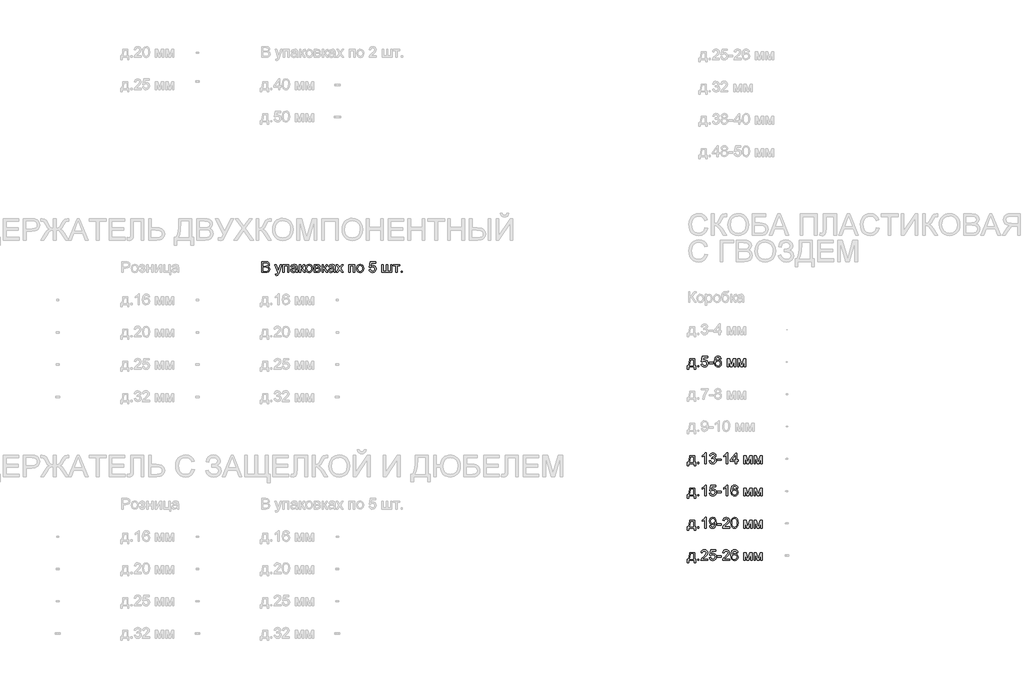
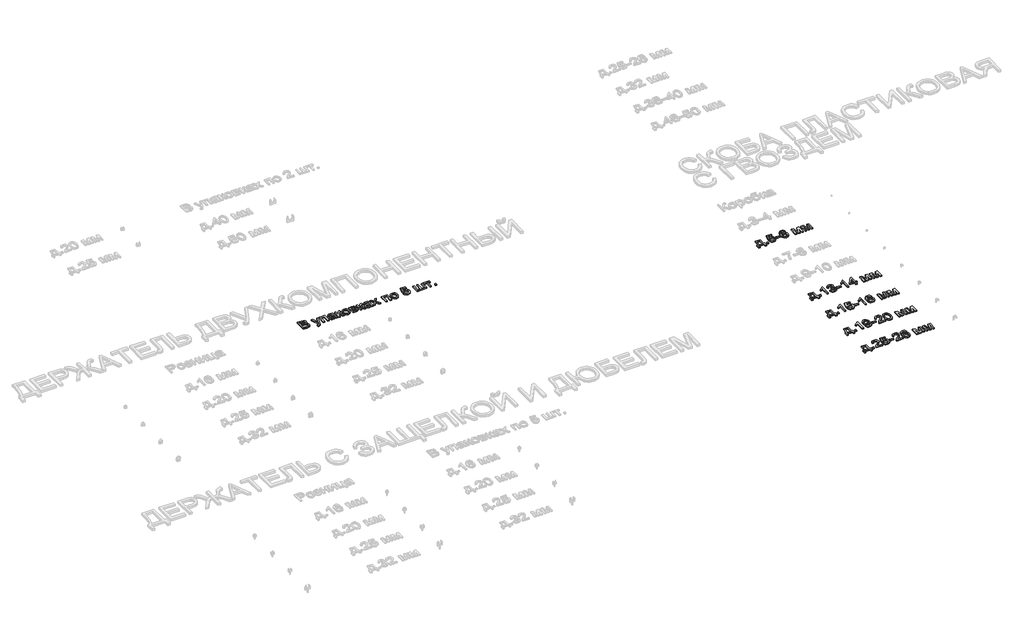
# One storey, part 44 of 98: 6 proxies.
"""IFC4 building model written with IfcOpenShell, lengths in millimetres."""

from ifc_helpers import new_model, si_unit, origin, origin_with_axes, place, context, project, spatial, polyline, outline, extrude, element, save

model = new_model("IFC4")

# Units and contexts
model_context = context("Model", 3, world=origin())
ifc_project = project(units=[si_unit("LENGTHUNIT", "METRE", prefix="MILLI")], contexts=[model_context])

# Site, building, storey
site = spatial("IfcSite", under=ifc_project)
building = spatial("IfcBuilding", under=site)
storey = spatial("IfcBuildingStorey", under=building, Name="Этаж 01", Elevation=0.0)

# Proxies
placement = place(None, origin())
element("IfcBuildingElementProxy", 1, Name="100", ObjectType="100", at=placement, inside=storey, context=model_context, shape_type="SweptSolid", body=[
    extrude(outline(polyline([(8365.3429127, -36359.5121665), (8365.3429127, -36259.0558563), (8403.6762166, -36259.0558563), (8422.4504611, -36262.011175), (8433.5359719, -36271.0978603), (8437.5458857, -36283.9492046), (8434.173634, -36295.6846403), (8423.9833028, -36304.5751218), (8436.3564006, -36313.94385), (8440.6851454, -36329.5665721), (8437.7298267, -36343.0678413), (8430.408975, -36352.6818241), (8419.4828797, -36357.7831211), (8403.3819111, -36359.5121665), (8365.3429127, -36359.5121665)]), holes=[polyline([(8377.8999515, -36299.8662323), (8400.8312626, -36299.8662323), (8414.2221672, -36298.7871118), (8422.2787829, -36294.1395359), (8424.9888469, -36285.9602929), (8422.4627239, -36277.7687871), (8415.2277113, -36272.9250075), (8399.0899544, -36271.6128951), (8377.8999515, -36271.6128951), (8377.8999515, -36299.8662323)]), polyline([(8377.8999515, -36346.9551277), (8403.6516912, -36346.9551277), (8412.9713684, -36346.4646184), (8420.8563058, -36343.7300289), (8426.0802302, -36338.1504853), (8428.1281066, -36329.6891994), (8425.7246109, -36319.9280638), (8417.9377753, -36314.1032655), (8402.4254179, -36312.4232711), (8377.8999515, -36312.4232711), (8377.8999515, -36346.9551277)])]), origin_with_axes(), (0.0, 0.0, 1.0), 10.0),
    extrude(outline(polyline([(8495.62219, -36387.7655037), (8494.0525601, -36375.6744488), (8500.4291814, -36376.7780948), (8506.3888697, -36375.3924059), (8510.0431642, -36371.529645), (8513.4767295, -36362.2835442), (8514.4577481, -36359.2423863), (8487.7740407, -36285.7395637), (8501.0177926, -36285.7395637), (8515.1689867, -36326.6970925), (8520.0986054, -36343.080104), (8525.0282241, -36328.6100789), (8539.5718257, -36285.7395637), (8552.7174756, -36285.7395637), (8527.0393124, -36361.278), (8520.3683855, -36377.6610116), (8513.084322, -36386.5147049), (8503.2986609, -36389.3351335), (8495.62219, -36387.7655037)])), origin_with_axes(), (0.0, 0.0, 1.0), 10.0),
    extrude(outline(polyline([(8563.1162734, -36285.7395637), (8619.6229478, -36285.7395637), (8619.6229478, -36359.5121665), (8607.065909, -36359.5121665), (8607.065909, -36298.2966025), (8575.6733121, -36298.2966025), (8575.6733121, -36359.5121665), (8563.1162734, -36359.5121665), (8563.1162734, -36285.7395637)])), origin_with_axes(), (0.0, 0.0, 1.0), 10.0),
    extrude(outline(polyline([(8685.5474014, -36350.0943874), (8673.3705073, -36358.6047242), (8659.918289, -36361.0817963), (8649.4244551, -36359.5918742), (8641.6836048, -36355.122108), (8636.9103359, -36348.3346852), (8635.3192463, -36339.8917934), (8637.722742, -36329.9589795), (8644.0380496, -36322.7484924), (8652.8304292, -36318.6282141), (8663.6952108, -36316.7397532), (8685.473825, -36312.4232711), (8685.5474014, -36309.6273679), (8682.0893106, -36300.3567416), (8668.2078966, -36296.7269726), (8655.5037051, -36299.1427311), (8649.4459149, -36307.7143815), (8636.8888761, -36306.1447517), (8642.3212669, -36293.8820185), (8653.2596249, -36286.6960569), (8669.8265774, -36284.1699338), (8685.0446293, -36286.4017513), (8693.6408052, -36292.0058203), (8697.4913035, -36300.5284199), (8698.1044401, -36311.5158288), (8698.1044401, -36327.1385509), (8698.7421022, -36348.9539532), (8701.2436998, -36359.5121665), (8688.686661, -36359.5121665), (8685.5474014, -36350.0943874)]), holes=[polyline([(8685.5474014, -36324.9803098), (8665.2893661, -36328.8308081), (8654.4858982, -36330.8664218), (8649.5930677, -36334.1773597), (8647.876285, -36339.0088766), (8651.6164187, -36345.8024308), (8662.5915649, -36348.5247575), (8675.2957564, -36345.5203879), (8683.4872622, -36338.2485871), (8685.473825, -36328.5365025), (8685.5474014, -36324.9803098)])]), origin_with_axes(), (0.0, 0.0, 1.0), 10.0),
    extrude(outline(polyline([(8715.3703684, -36285.7395637), (8727.9274072, -36285.7395637), (8727.9274072, -36317.1321606), (8736.3396422, -36314.8758177), (8743.2312982, -36301.7301677), (8748.9579946, -36290.3871396), (8754.0102407, -36286.6960569), (8763.1950278, -36285.7395637), (8765.5985235, -36285.7395637), (8765.5985235, -36298.3701789), (8762.2140091, -36298.2966025), (8756.0826426, -36299.6209776), (8751.7661605, -36307.8860598), (8746.7016517, -36316.8255923), (8739.6015292, -36321.203388), (8747.5232548, -36326.0900872), (8755.2978276, -36336.3846517), (8768.7377832, -36359.5121665), (8754.4639618, -36359.5121665), (8741.2937864, -36336.875161), (8734.6719104, -36327.2979664), (8727.9274072, -36324.9803098), (8727.9274072, -36359.5121665), (8715.3703684, -36359.5121665), (8715.3703684, -36285.7395637)])), origin_with_axes(), (0.0, 0.0, 1.0), 10.0),
    extrude(outline(polyline([(8773.4466727, -36322.6258651), (8776.1628681, -36304.8387706), (8784.3114543, -36292.3369141), (8794.3791583, -36286.2116789), (8806.433425, -36284.1699338), (8819.6250602, -36286.656203), (8830.1618137, -36294.1150104), (8837.0687981, -36305.957745), (8839.3711263, -36321.5957955), (8835.2998989, -36343.9384953), (8823.4418359, -36356.5813732), (8806.433425, -36361.0817963), (8793.0823742, -36358.6047242), (8782.5578835, -36351.1735079), (8775.7244754, -36339.082453), (8773.4466727, -36322.6258651)]), holes=[polyline([(8786.0037115, -36322.6013396), (8787.4568454, -36333.9658276), (8791.816247, -36342.0622972), (8798.3768093, -36346.9091424), (8806.433425, -36348.5247575), (8814.4532525, -36346.8999454), (8821.001552, -36342.025509), (8825.3609536, -36333.8217405), (8826.8140875, -36322.2089321), (8825.3517566, -36311.175538), (8820.9647638, -36303.189433), (8814.4072672, -36298.3425877), (8806.433425, -36296.7269726), (8798.3768093, -36298.3364563), (8791.816247, -36303.1649075), (8787.4568454, -36311.242983), (8786.0037115, -36322.6013396)])]), origin_with_axes(), (0.0, 0.0, 1.0), 10.0),
    extrude(outline(polyline([(8853.4977949, -36285.7395637), (8881.1625209, -36285.7395637), (8896.3315219, -36287.4195581), (8904.8663841, -36293.5754502), (8908.4348395, -36304.3053417), (8906.2765985, -36313.024145), (8899.7773499, -36319.2413507), (8908.2141103, -36326.0471676), (8911.5740992, -36337.8807051), (8909.446515, -36347.4517684), (8904.3881375, -36354.1901403), (8896.3805728, -36358.1816599), (8885.4054266, -36359.5121665), (8853.4977949, -36359.5121665), (8853.4977949, -36285.7395637)]), holes=[polyline([(8866.0548337, -36313.9929009), (8878.4647196, -36313.9929009), (8888.7041018, -36313.3552388), (8893.6827715, -36310.8045903), (8895.8778007, -36306.1938026), (8892.0273025, -36300.0379106), (8878.8571271, -36298.2966025), (8866.0548337, -36298.2966025), (8866.0548337, -36313.9929009)]), polyline([(8866.0548337, -36346.9551277), (8881.4568265, -36346.9551277), (8895.1175113, -36344.6865221), (8899.0170604, -36336.8506356), (8896.8710821, -36330.8051081), (8891.2792758, -36327.2857037), (8880.2305532, -36326.5499397), (8866.0548337, -36326.5499397), (8866.0548337, -36346.9551277)])]), origin_with_axes(), (0.0, 0.0, 1.0), 10.0),
    extrude(outline(polyline([(8927.2703976, -36285.7395637), (8939.8274364, -36285.7395637), (8939.8274364, -36317.1321606), (8948.2396714, -36314.8758177), (8955.1313274, -36301.7301677), (8960.8580238, -36290.3871396), (8965.9102699, -36286.6960569), (8975.095057, -36285.7395637), (8977.4985527, -36285.7395637), (8977.4985527, -36298.3701789), (8974.1140384, -36298.2966025), (8967.9826718, -36299.6209776), (8963.6661897, -36307.8860598), (8958.6016809, -36316.8255923), (8951.5015584, -36321.203388), (8959.423284, -36326.0900872), (8967.1978569, -36336.3846517), (8980.6378124, -36359.5121665), (8966.363991, -36359.5121665), (8953.1938156, -36336.875161), (8946.5719397, -36327.2979664), (8939.8274364, -36324.9803098), (8939.8274364, -36359.5121665), (8927.2703976, -36359.5121665), (8927.2703976, -36285.7395637)])), origin_with_axes(), (0.0, 0.0, 1.0), 10.0),
    extrude(outline(polyline([(9035.574857, -36350.0943874), (9023.397963, -36358.6047242), (9009.9457447, -36361.0817963), (8999.4519108, -36359.5918742), (8991.7110605, -36355.122108), (8986.9377916, -36348.3346852), (8985.346702, -36339.8917934), (8987.7501977, -36329.9589795), (8994.0655052, -36322.7484924), (9002.8578849, -36318.6282141), (9013.7226665, -36316.7397532), (9035.5012806, -36312.4232711), (9035.574857, -36309.6273679), (9032.1167663, -36300.3567416), (9018.2353523, -36296.7269726), (9005.5311608, -36299.1427311), (8999.4733706, -36307.7143815), (8986.9163318, -36306.1447517), (8992.3487226, -36293.8820185), (9003.2870806, -36286.6960569), (9019.8540331, -36284.1699338), (9035.072085, -36286.4017513), (9043.6682609, -36292.0058203), (9047.5187591, -36300.5284199), (9048.1318958, -36311.5158288), (9048.1318958, -36327.1385509), (9048.7695579, -36348.9539532), (9051.2711555, -36359.5121665), (9038.7141167, -36359.5121665), (9035.574857, -36350.0943874)]), holes=[polyline([(9035.574857, -36324.9803098), (9015.3168218, -36328.8308081), (9004.5133539, -36330.8664218), (8999.6205234, -36334.1773597), (8997.9037407, -36339.0088766), (9001.6438743, -36345.8024308), (9012.6190205, -36348.5247575), (9025.3232121, -36345.5203879), (9033.5147179, -36338.2485871), (9035.5012806, -36328.5365025), (9035.574857, -36324.9803098)])]), origin_with_axes(), (0.0, 0.0, 1.0), 10.0),
    extrude(outline(polyline([(9057.5496749, -36359.5121665), (9084.3805351, -36322.4296613), (9059.1193047, -36285.7395637), (9074.226992, -36285.7395637), (9086.4161488, -36303.3978995), (9092.106057, -36311.736558), (9097.0356757, -36304.9184784), (9110.9170896, -36285.7395637), (9126.0247769, -36285.7395637), (9099.4882223, -36322.4296613), (9125.0437583, -36359.5121665), (9109.936071, -36359.5121665), (9094.5586036, -36337.2185176), (9091.738175, -36333.1472901), (9072.6573621, -36359.5121665), (9057.5496749, -36359.5121665)])), origin_with_axes(), (0.0, 0.0, 1.0), 10.0),
    extrude(outline(polyline([(9175.2719133, -36285.7395637), (9231.7785878, -36285.7395637), (9231.7785878, -36359.5121665), (9219.221549, -36359.5121665), (9219.221549, -36298.2966025), (9187.8289521, -36298.2966025), (9187.8289521, -36359.5121665), (9175.2719133, -36359.5121665), (9175.2719133, -36285.7395637)])), origin_with_axes(), (0.0, 0.0, 1.0), 10.0),
    extrude(outline(polyline([(9247.4748862, -36322.6258651), (9250.1910816, -36304.8387706), (9258.3396678, -36292.3369141), (9268.4073718, -36286.2116789), (9280.4616385, -36284.1699338), (9293.6532737, -36286.656203), (9304.1900272, -36294.1150104), (9311.0970116, -36305.957745), (9313.3993398, -36321.5957955), (9309.3281124, -36343.9384953), (9297.4700494, -36356.5813732), (9280.4616385, -36361.0817963), (9267.1105877, -36358.6047242), (9256.586097, -36351.1735079), (9249.7526889, -36339.082453), (9247.4748862, -36322.6258651)]), holes=[polyline([(9260.031925, -36322.6013396), (9261.4850589, -36333.9658276), (9265.8444605, -36342.0622972), (9272.4050228, -36346.9091424), (9280.4616385, -36348.5247575), (9288.481466, -36346.8999454), (9295.0297655, -36342.025509), (9299.3891671, -36333.8217405), (9300.842301, -36322.2089321), (9299.3799701, -36311.175538), (9294.9929773, -36303.189433), (9288.4354807, -36298.3425877), (9280.4616385, -36296.7269726), (9272.4050228, -36298.3364563), (9265.8444605, -36303.1649075), (9261.4850589, -36311.242983), (9260.031925, -36322.6013396)])]), origin_with_axes(), (0.0, 0.0, 1.0), 10.0),
    extrude(outline(polyline([(9363.6274949, -36332.8284591), (9376.1845336, -36331.2588292), (9382.5121039, -36344.1960127), (9395.6332284, -36348.5247575), (9404.6340746, -36347.019507), (9411.3785778, -36342.5037555), (9415.5908267, -36335.4986692), (9416.9949096, -36326.5254142), (9411.7341971, -36311.6139307), (9405.1276496, -36307.5120464), (9395.8294322, -36306.1447517), (9384.805235, -36308.3275182), (9377.7541635, -36313.9929009), (9365.1971247, -36312.4232711), (9376.1845336, -36260.6254862), (9424.8430589, -36260.6254862), (9424.8430589, -36273.1825249), (9386.3380767, -36273.1825249), (9380.9669996, -36300.847251), (9389.9371889, -36295.4025974), (9399.3365739, -36293.5877129), (9411.0689438, -36295.8379245), (9420.8086196, -36302.5885591), (9427.3661162, -36312.8769922), (9429.5519484, -36325.7405993), (9427.5837797, -36338.2976381), (9421.6792737, -36349.0397923), (9410.3730337, -36358.0712953), (9395.5841775, -36361.0817963), (9383.2509336, -36359.1473501), (9373.4254187, -36353.3440117), (9366.6901125, -36344.3462312), (9363.6274949, -36332.8284591)])), origin_with_axes(), (0.0, 0.0, 1.0), 10.0),
    extrude(outline(polyline([(9482.9193632, -36285.7395637), (9495.4764019, -36285.7395637), (9495.4764019, -36346.9551277), (9523.7297392, -36346.9551277), (9523.7297392, -36285.7395637), (9536.2867779, -36285.7395637), (9536.2867779, -36346.9551277), (9564.5401152, -36346.9551277), (9564.5401152, -36285.7395637), (9577.0971539, -36285.7395637), (9577.0971539, -36359.5121665), (9482.9193632, -36359.5121665), (9482.9193632, -36285.7395637)])), origin_with_axes(), (0.0, 0.0, 1.0), 10.0),
    extrude(outline(polyline([(9588.0845629, -36285.7395637), (9647.730497, -36285.7395637), (9647.730497, -36298.2966025), (9624.1860493, -36298.2966025), (9624.1860493, -36359.5121665), (9611.6290105, -36359.5121665), (9611.6290105, -36298.2966025), (9588.0845629, -36298.2966025), (9588.0845629, -36285.7395637)])), origin_with_axes(), (0.0, 0.0, 1.0), 10.0),
    extrude(outline(polyline([(9661.8571656, -36359.5121665), (9661.8571656, -36346.9551277), (9674.4142044, -36346.9551277), (9674.4142044, -36359.5121665), (9661.8571656, -36359.5121665)])), origin_with_axes(), (0.0, 0.0, 1.0), 10.0),
])
element("IfcBuildingElementProxy", 2, Name="100", ObjectType="100", at=placement, inside=storey, context=model_context, shape_type="SweptSolid", body=[
    extrude(outline(polyline([(12344.2087845, -37163.7647458), (12391.2976799, -37163.7647458), (12391.2976799, -37224.9803098), (12400.715459, -37224.9803098), (12400.715459, -37257.9425366), (12388.1584202, -37257.9425366), (12388.1584202, -37237.5373486), (12336.3606353, -37237.5373486), (12336.3606353, -37257.9425366), (12323.8035965, -37257.9425366), (12323.8035965, -37224.9803098), (12331.6517458, -37224.9803098), (12341.3515677, -37201.031192), (12344.2087845, -37163.7647458)]), holes=[polyline([(12355.1961935, -37176.3217846), (12352.2531375, -37204.9307411), (12345.7784144, -37224.9803098), (12378.7406412, -37224.9803098), (12378.7406412, -37176.3217846), (12355.1961935, -37176.3217846)])]), origin_with_axes(), (0.0, 0.0, 1.0), 10.0),
    extrude(outline(polyline([(12417.9813873, -37237.5373486), (12417.9813873, -37224.9803098), (12430.5384261, -37224.9803098), (12430.5384261, -37237.5373486), (12417.9813873, -37237.5373486)])), origin_with_axes(), (0.0, 0.0, 1.0), 10.0),
    extrude(outline(polyline([(12450.9436141, -37210.8536412), (12463.5006528, -37209.2840114), (12469.8282232, -37222.2211949), (12482.9493477, -37226.5499397), (12491.9501938, -37225.0446892), (12498.694697, -37220.5289377), (12502.9069459, -37213.5238514), (12504.3110288, -37204.5505964), (12499.0503163, -37189.6391128), (12492.4437688, -37185.5372286), (12483.1455514, -37184.1699338), (12472.1213543, -37186.3527004), (12465.0702827, -37192.0180831), (12452.5132439, -37190.4484532), (12463.5006528, -37138.6506683), (12512.1591781, -37138.6506683), (12512.1591781, -37151.2077071), (12473.6541959, -37151.2077071), (12468.2831188, -37178.8724331), (12477.2533081, -37173.4277796), (12486.6526931, -37171.6128951), (12498.385063, -37173.8631066), (12508.1247389, -37180.6137412), (12514.6822354, -37190.9021744), (12516.8680676, -37203.7657815), (12514.8998989, -37216.3228202), (12508.9953929, -37227.0649745), (12497.6891529, -37236.0964775), (12482.9002967, -37239.1069785), (12470.5670528, -37237.1725323), (12460.7415379, -37231.3691938), (12454.0062317, -37222.3714134), (12450.9436141, -37210.8536412)])), origin_with_axes(), (0.0, 0.0, 1.0), 10.0),
    extrude(outline(polyline([(12524.7162168, -37207.7143815), (12524.7162168, -37195.1573428), (12563.956963, -37195.1573428), (12563.956963, -37207.7143815), (12524.7162168, -37207.7143815)])), origin_with_axes(), (0.0, 0.0, 1.0), 10.0),
    extrude(outline(polyline([(12639.2991956, -37163.7647458), (12626.7421568, -37165.3343757), (12621.9842164, -37154.8620016), (12609.4026521, -37149.6380772), (12598.0718867, -37152.6792351), (12589.5002362, -37164.0958396), (12585.9317808, -37186.4753277), (12597.0050289, -37176.4566747), (12610.7270273, -37173.1825249), (12622.3275729, -37175.4204737), (12632.064183, -37182.1343201), (12638.6676648, -37192.3920964), (12640.8688254, -37205.2618349), (12636.7240216, -37222.5890769), (12625.3196798, -37234.85181), (12608.8630919, -37239.1069785), (12594.6168616, -37236.2865498), (12583.2707677, -37227.8252639), (12575.8487485, -37212.8892549), (12573.3747421, -37190.644657), (12576.1215943, -37165.6348127), (12584.362151, -37148.5344312), (12595.6132087, -37139.9443867), (12610.1874671, -37137.0810385), (12621.2055328, -37138.8530034), (12630.0285693, -37144.1688982), (12636.2089868, -37152.61179), (12639.2991956, -37163.7647458)]), holes=[polyline([(12585.9317808, -37205.0656312), (12588.8380486, -37215.9426755), (12596.5635705, -37223.8398757), (12607.8820732, -37226.5499397), (12616.1686152, -37225.1458567), (12622.6831922, -37220.9336079), (12626.904638, -37214.311732), (12628.3117867, -37205.6787678), (12626.9230321, -37197.3922259), (12622.7567686, -37191.0738526), (12616.131827, -37187.0731359), (12607.3670384, -37185.7395637), (12592.173512, -37191.0738526), (12587.4922136, -37197.2389417), (12585.9317808, -37205.0656312)])]), origin_with_axes(), (0.0, 0.0, 1.0), 10.0),
    extrude(outline(polyline([(12694.2362402, -37163.7647458), (12715.8431761, -37163.7647458), (12732.4959677, -37222.8220688), (12750.4486091, -37163.7647458), (12771.1481027, -37163.7647458), (12771.1481027, -37237.5373486), (12758.5910639, -37237.5373486), (12758.5910639, -37178.1366691), (12740.5403207, -37237.5373486), (12724.0592073, -37237.5373486), (12706.793279, -37175.291715), (12706.793279, -37237.5373486), (12694.2362402, -37237.5373486), (12694.2362402, -37163.7647458)])), origin_with_axes(), (0.0, 0.0, 1.0), 10.0),
    extrude(outline(polyline([(12789.9836608, -37163.7647458), (12811.5905967, -37163.7647458), (12828.2433883, -37222.8220688), (12846.1960297, -37163.7647458), (12866.8955233, -37163.7647458), (12866.8955233, -37237.5373486), (12854.3384845, -37237.5373486), (12854.3384845, -37178.1366691), (12836.2877413, -37237.5373486), (12819.8066279, -37237.5373486), (12802.5406996, -37175.291715), (12802.5406996, -37237.5373486), (12789.9836608, -37237.5373486), (12789.9836608, -37163.7647458)])), origin_with_axes(), (0.0, 0.0, 1.0), 10.0),
])
element("IfcBuildingElementProxy", 3, Name="100", ObjectType="100", at=placement, inside=storey, context=model_context, shape_type="SweptSolid", body=[
    extrude(outline(polyline([(12344.2087845, -38063.7647458), (12391.2976799, -38063.7647458), (12391.2976799, -38124.9803098), (12400.715459, -38124.9803098), (12400.715459, -38157.9425366), (12388.1584202, -38157.9425366), (12388.1584202, -38137.5373486), (12336.3606353, -38137.5373486), (12336.3606353, -38157.9425366), (12323.8035965, -38157.9425366), (12323.8035965, -38124.9803098), (12331.6517458, -38124.9803098), (12341.3515677, -38101.031192), (12344.2087845, -38063.7647458)]), holes=[polyline([(12355.1961935, -38076.3217846), (12352.2531375, -38104.9307411), (12345.7784144, -38124.9803098), (12378.7406412, -38124.9803098), (12378.7406412, -38076.3217846), (12355.1961935, -38076.3217846)])]), origin_with_axes(), (0.0, 0.0, 1.0), 10.0),
    extrude(outline(polyline([(12417.9813873, -38137.5373486), (12417.9813873, -38124.9803098), (12430.5384261, -38124.9803098), (12430.5384261, -38137.5373486), (12417.9813873, -38137.5373486)])), origin_with_axes(), (0.0, 0.0, 1.0), 10.0),
    extrude(outline(polyline([(12498.0325095, -38137.5373486), (12485.4754707, -38137.5373486), (12485.4754707, -38059.25206), (12473.5806195, -38067.7256087), (12460.3613931, -38074.0654417), (12460.3613931, -38062.195116), (12478.7677556, -38050.4474176), (12489.9391056, -38037.0810385), (12498.0325095, -38037.0810385), (12498.0325095, -38137.5373486)])), origin_with_axes(), (0.0, 0.0, 1.0), 10.0),
    extrude(outline(polyline([(12527.8554765, -38110.8536412), (12540.4125153, -38109.2840114), (12547.3409595, -38122.5032377), (12560.3026685, -38126.5499397), (12568.9111072, -38125.1581195), (12575.5575086, -38120.9826588), (12581.2228913, -38107.1993467), (12575.6065595, -38094.2131123), (12561.3327381, -38089.0750271), (12552.5280957, -38090.4484532), (12553.9260473, -38077.8914145), (12555.9371355, -38078.0385673), (12570.1864314, -38074.4333237), (12574.9321092, -38069.8593242), (12576.5140018, -38063.3478129), (12571.9277396, -38053.5253636), (12560.1064648, -38049.6380772), (12548.1380372, -38053.5621518), (12541.9821451, -38065.3343757), (12529.4251064, -38063.7647458), (12533.1223204, -38052.4891627), (12539.7012768, -38044.0707964), (12548.7021229, -38038.8284779), (12559.6650064, -38037.0810385), (12574.8094818, -38040.5268665), (12585.4044833, -38049.9446456), (12589.0710405, -38062.6120489), (12585.5884243, -38074.188069), (12575.2877284, -38082.5022021), (12588.9729387, -38091.0861154), (12593.7799301, -38107.4200759), (12591.3764344, -38119.6582836), (12584.1659473, -38129.8854031), (12573.2827716, -38136.8015846), (12559.8612101, -38139.1069785), (12547.7211043, -38137.1388098), (12537.8373413, -38131.2343038), (12530.9640794, -38122.2028008), (12527.8554765, -38110.8536412)])), origin_with_axes(), (0.0, 0.0, 1.0), 10.0),
    extrude(outline(polyline([(12601.6280793, -38107.7143815), (12601.6280793, -38095.1573428), (12640.8688254, -38095.1573428), (12640.8688254, -38107.7143815), (12601.6280793, -38107.7143815)])), origin_with_axes(), (0.0, 0.0, 1.0), 10.0),
    extrude(outline(polyline([(12698.9451298, -38137.5373486), (12686.388091, -38137.5373486), (12686.388091, -38059.25206), (12674.4932398, -38067.7256087), (12661.2740134, -38074.0654417), (12661.2740134, -38062.195116), (12679.6803759, -38050.4474176), (12690.8517259, -38037.0810385), (12698.9451298, -38037.0810385), (12698.9451298, -38137.5373486)])), origin_with_axes(), (0.0, 0.0, 1.0), 10.0),
    extrude(outline(polyline([(12769.5784728, -38137.5373486), (12769.5784728, -38113.9929009), (12724.0592073, -38113.9929009), (12724.0592073, -38101.4358622), (12772.7177325, -38038.6506683), (12782.1355116, -38038.6506683), (12782.1355116, -38101.4358622), (12794.6925504, -38101.4358622), (12794.6925504, -38113.9929009), (12782.1355116, -38113.9929009), (12782.1355116, -38137.5373486), (12769.5784728, -38137.5373486)]), holes=[polyline([(12769.5784728, -38101.4358622), (12769.5784728, -38062.6365744), (12739.5102511, -38101.4358622), (12769.5784728, -38101.4358622)])]), origin_with_axes(), (0.0, 0.0, 1.0), 10.0),
    extrude(outline(polyline([(12848.0599651, -38063.7647458), (12869.666901, -38063.7647458), (12886.3196926, -38122.8220688), (12904.272334, -38063.7647458), (12924.9718276, -38063.7647458), (12924.9718276, -38137.5373486), (12912.4147888, -38137.5373486), (12912.4147888, -38078.1366691), (12894.3640456, -38137.5373486), (12877.8829322, -38137.5373486), (12860.6170039, -38075.291715), (12860.6170039, -38137.5373486), (12848.0599651, -38137.5373486), (12848.0599651, -38063.7647458)])), origin_with_axes(), (0.0, 0.0, 1.0), 10.0),
    extrude(outline(polyline([(12943.8073857, -38063.7647458), (12965.4143216, -38063.7647458), (12982.0671132, -38122.8220688), (13000.0197546, -38063.7647458), (13020.7192482, -38063.7647458), (13020.7192482, -38137.5373486), (13008.1622094, -38137.5373486), (13008.1622094, -38078.1366691), (12990.1114662, -38137.5373486), (12973.6303528, -38137.5373486), (12956.3644245, -38075.291715), (12956.3644245, -38137.5373486), (12943.8073857, -38137.5373486), (12943.8073857, -38063.7647458)])), origin_with_axes(), (0.0, 0.0, 1.0), 10.0),
])
element("IfcBuildingElementProxy", 4, Name="100", ObjectType="100", at=placement, inside=storey, context=model_context, shape_type="SweptSolid", body=[
    extrude(outline(polyline([(12344.2087845, -38363.7647458), (12391.2976799, -38363.7647458), (12391.2976799, -38424.9803098), (12400.715459, -38424.9803098), (12400.715459, -38457.9425366), (12388.1584202, -38457.9425366), (12388.1584202, -38437.5373486), (12336.3606353, -38437.5373486), (12336.3606353, -38457.9425366), (12323.8035965, -38457.9425366), (12323.8035965, -38424.9803098), (12331.6517458, -38424.9803098), (12341.3515677, -38401.031192), (12344.2087845, -38363.7647458)]), holes=[polyline([(12355.1961935, -38376.3217846), (12352.2531375, -38404.9307411), (12345.7784144, -38424.9803098), (12378.7406412, -38424.9803098), (12378.7406412, -38376.3217846), (12355.1961935, -38376.3217846)])]), origin_with_axes(), (0.0, 0.0, 1.0), 10.0),
    extrude(outline(polyline([(12417.9813873, -38437.5373486), (12417.9813873, -38424.9803098), (12430.5384261, -38424.9803098), (12430.5384261, -38437.5373486), (12417.9813873, -38437.5373486)])), origin_with_axes(), (0.0, 0.0, 1.0), 10.0),
    extrude(outline(polyline([(12498.0325095, -38437.5373486), (12485.4754707, -38437.5373486), (12485.4754707, -38359.25206), (12473.5806195, -38367.7256087), (12460.3613931, -38374.0654417), (12460.3613931, -38362.195116), (12478.7677556, -38350.4474176), (12489.9391056, -38337.0810385), (12498.0325095, -38337.0810385), (12498.0325095, -38437.5373486)])), origin_with_axes(), (0.0, 0.0, 1.0), 10.0),
    extrude(outline(polyline([(12527.8554765, -38410.8536412), (12540.4125153, -38409.2840114), (12546.7400856, -38422.2211949), (12559.8612101, -38426.5499397), (12568.8620563, -38425.0446892), (12575.6065595, -38420.5289377), (12579.8188083, -38413.5238514), (12581.2228913, -38404.5505964), (12575.9621788, -38389.6391128), (12569.3556313, -38385.5372286), (12560.0574138, -38384.1699338), (12549.0332167, -38386.3527004), (12541.9821451, -38392.0180831), (12529.4251064, -38390.4484532), (12540.4125153, -38338.6506683), (12589.0710405, -38338.6506683), (12589.0710405, -38351.2077071), (12550.5660584, -38351.2077071), (12545.1949812, -38378.8724331), (12554.1651706, -38373.4277796), (12563.5645555, -38371.6128951), (12575.2969255, -38373.8631066), (12585.0366013, -38380.6137412), (12591.5940979, -38390.9021744), (12593.7799301, -38403.7657815), (12591.8117614, -38416.3228202), (12585.9072554, -38427.0649745), (12574.6010154, -38436.0964775), (12559.8121592, -38439.1069785), (12547.4789153, -38437.1725323), (12537.6534003, -38431.3691938), (12530.9180941, -38422.3714134), (12527.8554765, -38410.8536412)])), origin_with_axes(), (0.0, 0.0, 1.0), 10.0),
    extrude(outline(polyline([(12601.6280793, -38407.7143815), (12601.6280793, -38395.1573428), (12640.8688254, -38395.1573428), (12640.8688254, -38407.7143815), (12601.6280793, -38407.7143815)])), origin_with_axes(), (0.0, 0.0, 1.0), 10.0),
    extrude(outline(polyline([(12698.9451298, -38437.5373486), (12686.388091, -38437.5373486), (12686.388091, -38359.25206), (12674.4932398, -38367.7256087), (12661.2740134, -38374.0654417), (12661.2740134, -38362.195116), (12679.6803759, -38350.4474176), (12690.8517259, -38337.0810385), (12698.9451298, -38337.0810385), (12698.9451298, -38437.5373486)])), origin_with_axes(), (0.0, 0.0, 1.0), 10.0),
    extrude(outline(polyline([(12793.1229205, -38363.7647458), (12780.5658818, -38365.3343757), (12775.8079413, -38354.8620016), (12763.226377, -38349.6380772), (12751.8956116, -38352.6792351), (12743.3239611, -38364.0958396), (12739.7555058, -38386.4753277), (12750.8287538, -38376.4566747), (12764.5507522, -38373.1825249), (12776.1512978, -38375.4204737), (12785.8879079, -38382.1343201), (12792.4913898, -38392.3920964), (12794.6925504, -38405.2618349), (12790.5477466, -38422.5890769), (12779.1434047, -38434.85181), (12762.6868168, -38439.1069785), (12748.4405865, -38436.2865498), (12737.0944927, -38427.8252639), (12729.6724734, -38412.8892549), (12727.198467, -38390.644657), (12729.9453192, -38365.6348127), (12738.1858759, -38348.5344312), (12749.4369336, -38339.9443867), (12764.011192, -38337.0810385), (12775.0292577, -38338.8530034), (12783.8522942, -38344.1688982), (12790.0327118, -38352.61179), (12793.1229205, -38363.7647458)]), holes=[polyline([(12739.7555058, -38405.0656312), (12742.6617735, -38415.9426755), (12750.3872954, -38423.8398757), (12761.7057981, -38426.5499397), (12769.9923401, -38425.1458567), (12776.5069171, -38420.9336079), (12780.728363, -38414.311732), (12782.1355116, -38405.6787678), (12780.7467571, -38397.3922259), (12776.5804935, -38391.0738526), (12769.9555519, -38387.0731359), (12761.1907633, -38385.7395637), (12745.9972369, -38391.0738526), (12741.3159385, -38397.2389417), (12739.7555058, -38405.0656312)])]), origin_with_axes(), (0.0, 0.0, 1.0), 10.0),
    extrude(outline(polyline([(12848.0599651, -38363.7647458), (12869.666901, -38363.7647458), (12886.3196926, -38422.8220688), (12904.272334, -38363.7647458), (12924.9718276, -38363.7647458), (12924.9718276, -38437.5373486), (12912.4147888, -38437.5373486), (12912.4147888, -38378.1366691), (12894.3640456, -38437.5373486), (12877.8829322, -38437.5373486), (12860.6170039, -38375.291715), (12860.6170039, -38437.5373486), (12848.0599651, -38437.5373486), (12848.0599651, -38363.7647458)])), origin_with_axes(), (0.0, 0.0, 1.0), 10.0),
    extrude(outline(polyline([(12943.8073857, -38363.7647458), (12965.4143216, -38363.7647458), (12982.0671132, -38422.8220688), (13000.0197546, -38363.7647458), (13020.7192482, -38363.7647458), (13020.7192482, -38437.5373486), (13008.1622094, -38437.5373486), (13008.1622094, -38378.1366691), (12990.1114662, -38437.5373486), (12973.6303528, -38437.5373486), (12956.3644245, -38375.291715), (12956.3644245, -38437.5373486), (12943.8073857, -38437.5373486), (12943.8073857, -38363.7647458)])), origin_with_axes(), (0.0, 0.0, 1.0), 10.0),
])
element("IfcBuildingElementProxy", 5, Name="100", ObjectType="100", at=placement, inside=storey, context=model_context, shape_type="SweptSolid", body=[
    extrude(outline(polyline([(12344.2087845, -38663.7647458), (12391.2976799, -38663.7647458), (12391.2976799, -38724.9803098), (12400.715459, -38724.9803098), (12400.715459, -38757.9425366), (12388.1584202, -38757.9425366), (12388.1584202, -38737.5373486), (12336.3606353, -38737.5373486), (12336.3606353, -38757.9425366), (12323.8035965, -38757.9425366), (12323.8035965, -38724.9803098), (12331.6517458, -38724.9803098), (12341.3515677, -38701.031192), (12344.2087845, -38663.7647458)]), holes=[polyline([(12355.1961935, -38676.3217846), (12352.2531375, -38704.9307411), (12345.7784144, -38724.9803098), (12378.7406412, -38724.9803098), (12378.7406412, -38676.3217846), (12355.1961935, -38676.3217846)])]), origin_with_axes(), (0.0, 0.0, 1.0), 10.0),
    extrude(outline(polyline([(12417.9813873, -38737.5373486), (12417.9813873, -38724.9803098), (12430.5384261, -38724.9803098), (12430.5384261, -38737.5373486), (12417.9813873, -38737.5373486)])), origin_with_axes(), (0.0, 0.0, 1.0), 10.0),
    extrude(outline(polyline([(12498.0325095, -38737.5373486), (12485.4754707, -38737.5373486), (12485.4754707, -38659.25206), (12473.5806195, -38667.7256087), (12460.3613931, -38674.0654417), (12460.3613931, -38662.195116), (12478.7677556, -38650.4474176), (12489.9391056, -38637.0810385), (12498.0325095, -38637.0810385), (12498.0325095, -38737.5373486)])), origin_with_axes(), (0.0, 0.0, 1.0), 10.0),
    extrude(outline(polyline([(12529.4251064, -38712.4232711), (12541.9821451, -38710.8536412), (12547.6230024, -38722.8343315), (12558.3161057, -38726.5499397), (12568.4819115, -38724.1587067), (12575.3735676, -38717.7698227), (12579.4815832, -38706.8559902), (12581.2964677, -38692.2878632), (12581.2228913, -38689.8353166), (12571.1797128, -38699.3511975), (12557.4086635, -38703.005492), (12545.9583364, -38700.7736746), (12536.427127, -38694.0782222), (12529.9983892, -38683.7346068), (12527.8554765, -38670.5583), (12530.1026224, -38656.9466662), (12536.8440599, -38646.2780883), (12546.9700119, -38639.3803009), (12559.3707008, -38637.0810385), (12577.2620285, -38642.3294883), (12589.5738126, -38657.2900227), (12593.7799301, -38685.3962072), (12589.5860753, -38715.8936246), (12584.371348, -38725.8846864), (12577.1148757, -38733.1718156), (12568.129358, -38737.6231877), (12557.7274945, -38739.1069785), (12546.9914716, -38737.3564733), (12538.4259525, -38732.1049578), (12532.4356074, -38723.6835258), (12529.4251064, -38712.4232711)]), holes=[polyline([(12581.2228913, -38670.2639944), (12579.8678593, -38661.7536576), (12575.8027632, -38655.2053581), (12569.493587, -38651.0298974), (12561.4063145, -38649.6380772), (12553.018605, -38651.1371964), (12546.2986272, -38655.6345538), (12541.8840433, -38662.5170127), (12540.4125153, -38671.1714367), (12541.8043355, -38678.9306811), (12545.9797962, -38685.0896388), (12552.534227, -38689.1087496), (12561.062958, -38690.4484532), (12575.5452458, -38685.0896388), (12579.8034799, -38678.7038205), (12581.2228913, -38670.2639944)])]), origin_with_axes(), (0.0, 0.0, 1.0), 10.0),
    extrude(outline(polyline([(12601.6280793, -38707.7143815), (12601.6280793, -38695.1573428), (12640.8688254, -38695.1573428), (12640.8688254, -38707.7143815), (12601.6280793, -38707.7143815)])), origin_with_axes(), (0.0, 0.0, 1.0), 10.0),
    extrude(outline(polyline([(12716.2110581, -38724.9803098), (12716.2110581, -38737.5373486), (12650.2866045, -38737.5373486), (12651.6355052, -38728.879859), (12659.2629252, -38715.550268), (12674.9837491, -38700.9944038), (12696.6642614, -38680.074181), (12702.0843894, -38665.8494105), (12696.9708297, -38654.334704), (12683.6167133, -38649.6380772), (12669.6985111, -38654.2243394), (12664.4132731, -38666.9040055), (12651.8562344, -38665.3343757), (12654.9004579, -38653.1881385), (12661.4824799, -38644.316051), (12671.2589439, -38638.8897916), (12683.8864934, -38637.0810385), (12696.6060134, -38639.0921267), (12706.3640833, -38645.1253914), (12712.572092, -38654.1385003), (12714.6414282, -38665.089121), (12712.4096108, -38676.9962349), (12704.9906572, -38689.308019), (12687.0012276, -38706.5126337), (12672.555728, -38718.5914259), (12666.8903452, -38724.9803098), (12716.2110581, -38724.9803098)])), origin_with_axes(), (0.0, 0.0, 1.0), 10.0),
    extrude(outline(polyline([(12728.7680968, -38688.1185339), (12732.4591795, -38659.2152718), (12743.422063, -38642.5502175), (12761.7303236, -38637.0810385), (12776.3965525, -38640.3184), (12786.5255701, -38649.65034), (12792.411682, -38664.5127726), (12794.6925504, -38688.1185339), (12791.0382559, -38716.8991687), (12780.1121606, -38733.6010113), (12771.880801, -38737.7304867), (12761.7303236, -38739.1069785), (12748.6827755, -38736.7157455), (12738.7744871, -38729.5420466), (12731.2696944, -38712.5520298), (12728.7680968, -38688.1185339)]), holes=[polyline([(12741.3251356, -38688.0940085), (12742.7966636, -38707.8462059), (12747.2112475, -38719.2781389), (12753.7840725, -38724.7319895), (12761.7303236, -38726.5499397), (12769.6765747, -38724.7258581), (12776.2493997, -38719.2536135), (12780.6639836, -38707.8155491), (12782.1355116, -38688.0940085), (12780.7130345, -38668.7863351), (12776.4456034, -38657.2654973), (12769.8850412, -38651.5449322), (12761.5831708, -38649.6380772), (12753.7227588, -38651.3180717), (12747.4074513, -38656.358055), (12742.8457145, -38668.5962627), (12741.3251356, -38688.0940085)])]), origin_with_axes(), (0.0, 0.0, 1.0), 10.0),
    extrude(outline(polyline([(12848.0599651, -38663.7647458), (12869.666901, -38663.7647458), (12886.3196926, -38722.8220688), (12904.272334, -38663.7647458), (12924.9718276, -38663.7647458), (12924.9718276, -38737.5373486), (12912.4147888, -38737.5373486), (12912.4147888, -38678.1366691), (12894.3640456, -38737.5373486), (12877.8829322, -38737.5373486), (12860.6170039, -38675.291715), (12860.6170039, -38737.5373486), (12848.0599651, -38737.5373486), (12848.0599651, -38663.7647458)])), origin_with_axes(), (0.0, 0.0, 1.0), 10.0),
    extrude(outline(polyline([(12943.8073857, -38663.7647458), (12965.4143216, -38663.7647458), (12982.0671132, -38722.8220688), (13000.0197546, -38663.7647458), (13020.7192482, -38663.7647458), (13020.7192482, -38737.5373486), (13008.1622094, -38737.5373486), (13008.1622094, -38678.1366691), (12990.1114662, -38737.5373486), (12973.6303528, -38737.5373486), (12956.3644245, -38675.291715), (12956.3644245, -38737.5373486), (12943.8073857, -38737.5373486), (12943.8073857, -38663.7647458)])), origin_with_axes(), (0.0, 0.0, 1.0), 10.0),
])
element("IfcBuildingElementProxy", 6, Name="100", ObjectType="100", at=placement, inside=storey, context=model_context, shape_type="SweptSolid", body=[
    extrude(outline(polyline([(12344.2087845, -38963.7647458), (12391.2976799, -38963.7647458), (12391.2976799, -39024.9803098), (12400.715459, -39024.9803098), (12400.715459, -39057.9425366), (12388.1584202, -39057.9425366), (12388.1584202, -39037.5373486), (12336.3606353, -39037.5373486), (12336.3606353, -39057.9425366), (12323.8035965, -39057.9425366), (12323.8035965, -39024.9803098), (12331.6517458, -39024.9803098), (12341.3515677, -39001.031192), (12344.2087845, -38963.7647458)]), holes=[polyline([(12355.1961935, -38976.3217846), (12352.2531375, -39004.9307411), (12345.7784144, -39024.9803098), (12378.7406412, -39024.9803098), (12378.7406412, -38976.3217846), (12355.1961935, -38976.3217846)])]), origin_with_axes(), (0.0, 0.0, 1.0), 10.0),
    extrude(outline(polyline([(12417.9813873, -39037.5373486), (12417.9813873, -39024.9803098), (12430.5384261, -39024.9803098), (12430.5384261, -39037.5373486), (12417.9813873, -39037.5373486)])), origin_with_axes(), (0.0, 0.0, 1.0), 10.0),
    extrude(outline(polyline([(12515.2984378, -39024.9803098), (12515.2984378, -39037.5373486), (12449.3739842, -39037.5373486), (12450.7228849, -39028.879859), (12458.3503049, -39015.550268), (12474.0711288, -39000.9944038), (12495.7516411, -38980.074181), (12501.1717691, -38965.8494105), (12496.0582094, -38954.334704), (12482.704093, -38949.6380772), (12468.7858908, -38954.2243394), (12463.5006528, -38966.9040055), (12450.9436141, -38965.3343757), (12453.9878376, -38953.1881385), (12460.5698596, -38944.316051), (12470.3463236, -38938.8897916), (12482.9738731, -38937.0810385), (12495.6933931, -38939.0921267), (12505.451463, -38945.1253914), (12511.6594717, -38954.1385003), (12513.7288079, -38965.089121), (12511.4969905, -38976.9962349), (12504.0780369, -38989.308019), (12486.0886073, -39006.5126337), (12471.6431077, -39018.5914259), (12465.9777249, -39024.9803098), (12515.2984378, -39024.9803098)])), origin_with_axes(), (0.0, 0.0, 1.0), 10.0),
    extrude(outline(polyline([(12527.8554765, -39010.8536412), (12540.4125153, -39009.2840114), (12546.7400856, -39022.2211949), (12559.8612101, -39026.5499397), (12568.8620563, -39025.0446892), (12575.6065595, -39020.5289377), (12579.8188083, -39013.5238514), (12581.2228913, -39004.5505964), (12575.9621788, -38989.6391128), (12569.3556313, -38985.5372286), (12560.0574138, -38984.1699338), (12549.0332167, -38986.3527004), (12541.9821451, -38992.0180831), (12529.4251064, -38990.4484532), (12540.4125153, -38938.6506683), (12589.0710405, -38938.6506683), (12589.0710405, -38951.2077071), (12550.5660584, -38951.2077071), (12545.1949812, -38978.8724331), (12554.1651706, -38973.4277796), (12563.5645555, -38971.6128951), (12575.2969255, -38973.8631066), (12585.0366013, -38980.6137412), (12591.5940979, -38990.9021744), (12593.7799301, -39003.7657815), (12591.8117614, -39016.3228202), (12585.9072554, -39027.0649745), (12574.6010154, -39036.0964775), (12559.8121592, -39039.1069785), (12547.4789153, -39037.1725323), (12537.6534003, -39031.3691938), (12530.9180941, -39022.3714134), (12527.8554765, -39010.8536412)])), origin_with_axes(), (0.0, 0.0, 1.0), 10.0),
    extrude(outline(polyline([(12601.6280793, -39007.7143815), (12601.6280793, -38995.1573428), (12640.8688254, -38995.1573428), (12640.8688254, -39007.7143815), (12601.6280793, -39007.7143815)])), origin_with_axes(), (0.0, 0.0, 1.0), 10.0),
    extrude(outline(polyline([(12716.2110581, -39024.9803098), (12716.2110581, -39037.5373486), (12650.2866045, -39037.5373486), (12651.6355052, -39028.879859), (12659.2629252, -39015.550268), (12674.9837491, -39000.9944038), (12696.6642614, -38980.074181), (12702.0843894, -38965.8494105), (12696.9708297, -38954.334704), (12683.6167133, -38949.6380772), (12669.6985111, -38954.2243394), (12664.4132731, -38966.9040055), (12651.8562344, -38965.3343757), (12654.9004579, -38953.1881385), (12661.4824799, -38944.316051), (12671.2589439, -38938.8897916), (12683.8864934, -38937.0810385), (12696.6060134, -38939.0921267), (12706.3640833, -38945.1253914), (12712.572092, -38954.1385003), (12714.6414282, -38965.089121), (12712.4096108, -38976.9962349), (12704.9906572, -38989.308019), (12687.0012276, -39006.5126337), (12672.555728, -39018.5914259), (12666.8903452, -39024.9803098), (12716.2110581, -39024.9803098)])), origin_with_axes(), (0.0, 0.0, 1.0), 10.0),
    extrude(outline(polyline([(12793.1229205, -38963.7647458), (12780.5658818, -38965.3343757), (12775.8079413, -38954.8620016), (12763.226377, -38949.6380772), (12751.8956116, -38952.6792351), (12743.3239611, -38964.0958396), (12739.7555058, -38986.4753277), (12750.8287538, -38976.4566747), (12764.5507522, -38973.1825249), (12776.1512978, -38975.4204737), (12785.8879079, -38982.1343201), (12792.4913898, -38992.3920964), (12794.6925504, -39005.2618349), (12790.5477466, -39022.5890769), (12779.1434047, -39034.85181), (12762.6868168, -39039.1069785), (12748.4405865, -39036.2865498), (12737.0944927, -39027.8252639), (12729.6724734, -39012.8892549), (12727.198467, -38990.644657), (12729.9453192, -38965.6348127), (12738.1858759, -38948.5344312), (12749.4369336, -38939.9443867), (12764.011192, -38937.0810385), (12775.0292577, -38938.8530034), (12783.8522942, -38944.1688982), (12790.0327118, -38952.61179), (12793.1229205, -38963.7647458)]), holes=[polyline([(12739.7555058, -39005.0656312), (12742.6617735, -39015.9426755), (12750.3872954, -39023.8398757), (12761.7057981, -39026.5499397), (12769.9923401, -39025.1458567), (12776.5069171, -39020.9336079), (12780.728363, -39014.311732), (12782.1355116, -39005.6787678), (12780.7467571, -38997.3922259), (12776.5804935, -38991.0738526), (12769.9555519, -38987.0731359), (12761.1907633, -38985.7395637), (12745.9972369, -38991.0738526), (12741.3159385, -38997.2389417), (12739.7555058, -39005.0656312)])]), origin_with_axes(), (0.0, 0.0, 1.0), 10.0),
    extrude(outline(polyline([(12848.0599651, -38963.7647458), (12869.666901, -38963.7647458), (12886.3196926, -39022.8220688), (12904.272334, -38963.7647458), (12924.9718276, -38963.7647458), (12924.9718276, -39037.5373486), (12912.4147888, -39037.5373486), (12912.4147888, -38978.1366691), (12894.3640456, -39037.5373486), (12877.8829322, -39037.5373486), (12860.6170039, -38975.291715), (12860.6170039, -39037.5373486), (12848.0599651, -39037.5373486), (12848.0599651, -38963.7647458)])), origin_with_axes(), (0.0, 0.0, 1.0), 10.0),
    extrude(outline(polyline([(12943.8073857, -38963.7647458), (12965.4143216, -38963.7647458), (12982.0671132, -39022.8220688), (13000.0197546, -38963.7647458), (13020.7192482, -38963.7647458), (13020.7192482, -39037.5373486), (13008.1622094, -39037.5373486), (13008.1622094, -38978.1366691), (12990.1114662, -39037.5373486), (12973.6303528, -39037.5373486), (12956.3644245, -38975.291715), (12956.3644245, -39037.5373486), (12943.8073857, -39037.5373486), (12943.8073857, -38963.7647458)])), origin_with_axes(), (0.0, 0.0, 1.0), 10.0),
])

save(model, "model.ifc")
